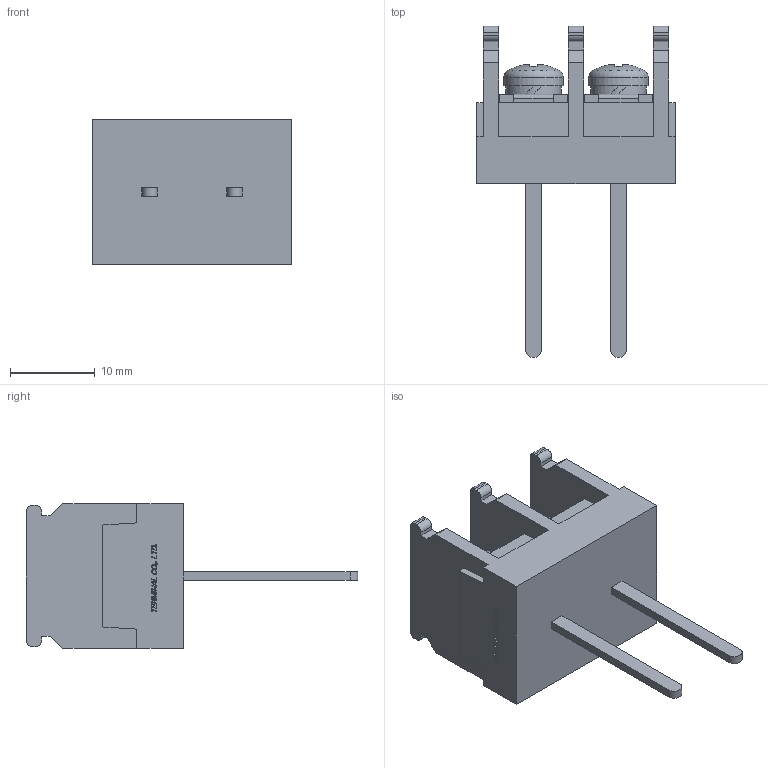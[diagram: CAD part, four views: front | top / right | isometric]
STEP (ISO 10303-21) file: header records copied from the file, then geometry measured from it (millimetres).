
FILE_DESCRIPTION(/* description */ ('Alibre Inc.'),/* implementation_level */ '2;1');
FILE_NAME(/* name */ 'export0',/* time_stamp */ '2015-10-17T17:05:05+09:00',/* author */ (''),/* organization */ (''),/* preprocessor_version */ 'ST-DEVELOPER v14',/* originating_system */ 'Alibre',/* authorisation */ '');
FILE_SCHEMA (('CONFIG_CONTROL_DESIGN'));
Length unit declared in the file: centimetre
Products named in the file (1): ID_1
Bounding box: 23.4 x 39 x 17 mm (x, y, z)
Volume: 4630 mm3; surface area: 3166.3 mm2
Topology: 1 solids, 17 shells, 542 faces, 1440 edges, 958 vertices
Faces by surface type: plane 400, bspline 104, cylinder 24, cone 8, torus 4, sphere 2
Full cylindrical faces by diameter (mm): 4 x2, 6.5 x2, 7 x2
Entity records: 16318 total; most frequent: CARTESIAN_POINT 3905, ORIENTED_EDGE 2852, DIRECTION 1770, EDGE_CURVE 1426, VECTOR 1096, LINE 1096, VERTEX_POINT 952, EDGE_LOOP 588
